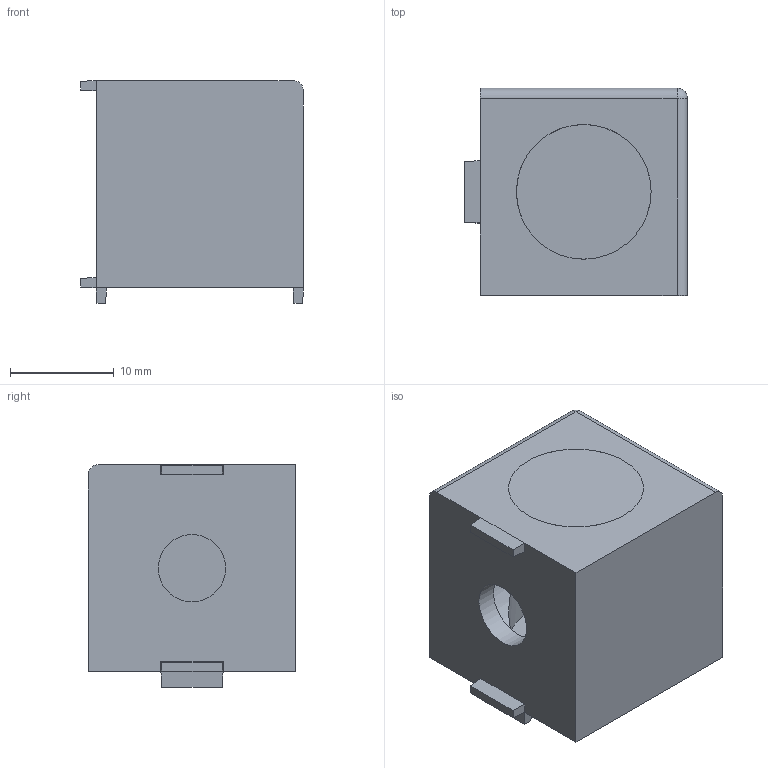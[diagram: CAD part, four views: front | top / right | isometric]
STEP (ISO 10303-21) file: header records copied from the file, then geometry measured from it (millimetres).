
FILE_DESCRIPTION(/* description */ ('STEP AP214'),/* implementation_level */ '2;1');
FILE_NAME(/* name */ 'Cube Corner Bracket - 20 Series - 2 Way.step',/* time_stamp */ '2025-06-29T02:12:47+03:00',/* author */ (''),/* organization */ (''),/* preprocessor_version */ 'ST-DEVELOPER v20.1',/* originating_system */ 'Autodesk Translation Framework v14.10.0.0',/* authorisation */ '');
FILE_SCHEMA (('AUTOMOTIVE_DESIGN { 1 0 10303 214 3 1 1 }'));
Length unit declared in the file: millimetre
Products named in the file (1): CC-2020-02-ST
Bounding box: 21.5 x 20 x 21.5 mm (x, y, z)
Volume: 4862.7 mm3; surface area: 3883.4 mm2
Topology: 3 solids, 3 shells, 88 faces, 224 edges, 143 vertices
Faces by surface type: plane 66, cylinder 19, cone 2, sphere 1
Full cylindrical faces by diameter (mm): 6.5 x2, 9 x2, 13 x4
Entity records: 2661 total; most frequent: CARTESIAN_POINT 475, ORIENTED_EDGE 446, DIRECTION 441, EDGE_CURVE 223, LINE 163, VECTOR 163, VERTEX_POINT 143, AXIS2_PLACEMENT_3D 139
